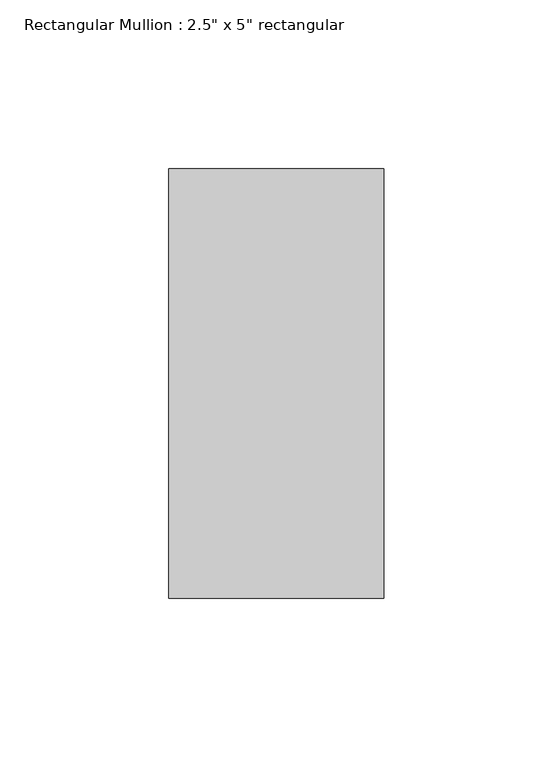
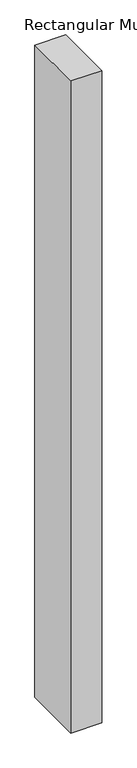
"""IFC4 building model written with IfcOpenShell, lengths in millimetres: member geometry."""

from ifc_helpers import new_model, si_unit, frame, origin, place, context, project, spatial, polyline, outline, extrude, source, transform, mapped, element, save


def member_14f14c38(model_context):
    return source(origin(), model_context, "Body", "SweptSolid", [
        extrude(outline(polyline([(31.75, 63.5), (31.75, -63.5), (-31.75, -63.5), (-31.75, 63.5), (31.75, 63.5)])), frame((0.0, 0.0, -1410.2226312), z_axis=(0.0, 0.0, 1.0), x_axis=(1.0, 0.0, 0.0)), (0.0, 0.0, 1.0), 1410.2226312),
    ])


if __name__ == "__main__":
    model = new_model("IFC4")
    model_context = context("Model", 3, world=origin())
    ifc_project = project(units=[si_unit("LENGTHUNIT", "METRE", prefix="MILLI")], contexts=[model_context])
    site = spatial("IfcSite", under=ifc_project)
    building = spatial("IfcBuilding", under=site)
    placement = place(None, origin())
    member_shape = member_14f14c38(model_context)
    element("IfcMember", 1, ObjectType="Rectangular Mullion : 2.5\" x 5\" rectangular", at=placement, inside=building, context=model_context, shape_type="MappedRepresentation", body=[
        mapped(member_shape, transform((0.0, 0.0, 0.0), x_axis=(1.0, 0.0, 0.0), y_axis=(0.0, 1.0, 0.0), z_axis=(0.0, 0.0, 1.0))),
    ])
    save(model, "model.ifc")
